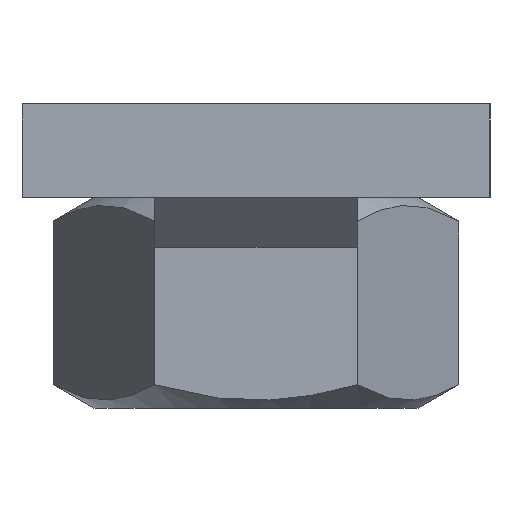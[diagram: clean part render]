
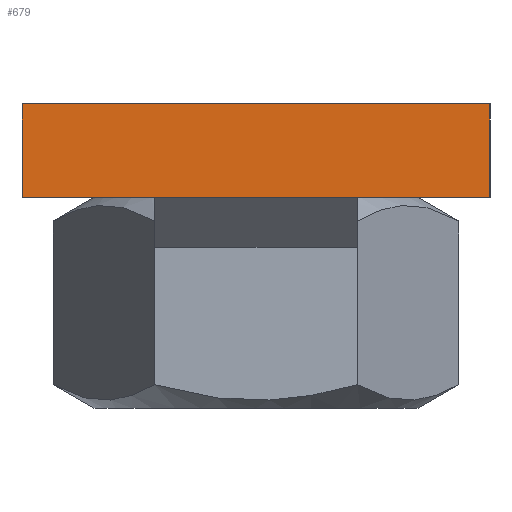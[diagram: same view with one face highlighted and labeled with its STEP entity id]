
A CAD part, left-side view. The second image highlights one B-rep face of the part: STEP entity #679.
In plain terms, the highlighted planar face has unit normal (-1, 0, 0).
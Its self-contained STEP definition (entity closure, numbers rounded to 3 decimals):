
#141=FACE_OUTER_BOUND('',#193,.T.);
#193=EDGE_LOOP('',(#546,#547,#548,#549));
#263=LINE('',#1075,#311);
#265=LINE('',#1079,#313);
#266=LINE('',#1081,#314);
#267=LINE('',#1082,#315);
#311=VECTOR('',#889,8.);
#313=VECTOR('',#893,40.);
#314=VECTOR('',#894,8.);
#315=VECTOR('',#895,40.);
#362=VERTEX_POINT('',#1072);
#363=VERTEX_POINT('',#1074);
#364=VERTEX_POINT('',#1078);
#365=VERTEX_POINT('',#1080);
#433=EDGE_CURVE('',#363,#362,#263,.T.);
#435=EDGE_CURVE('',#362,#364,#265,.T.);
#436=EDGE_CURVE('',#365,#364,#266,.T.);
#437=EDGE_CURVE('',#363,#365,#267,.T.);
#546=ORIENTED_EDGE('',*,*,#435,.T.);
#547=ORIENTED_EDGE('',*,*,#436,.F.);
#548=ORIENTED_EDGE('',*,*,#437,.F.);
#549=ORIENTED_EDGE('',*,*,#433,.T.);
#641=PLANE('',#742);
#679=ADVANCED_FACE('',(#141),#641,.T.);
#742=AXIS2_PLACEMENT_3D('',#1077,#891,#892);
#889=DIRECTION('',(0.,0.,1.));
#891=DIRECTION('center_axis',(-1.,0.,0.));
#892=DIRECTION('ref_axis',(0.,0.,1.));
#893=DIRECTION('',(0.,1.,0.));
#894=DIRECTION('',(0.,0.,1.));
#895=DIRECTION('',(0.,1.,0.));
#1072=CARTESIAN_POINT('',(-110.,-20.,8.));
#1074=CARTESIAN_POINT('',(-110.,-20.,0.));
#1075=CARTESIAN_POINT('',(-110.,-20.,0.));
#1077=CARTESIAN_POINT('Origin',(-110.,-20.,0.));
#1078=CARTESIAN_POINT('',(-110.,20.,8.));
#1079=CARTESIAN_POINT('',(-110.,-20.,8.));
#1080=CARTESIAN_POINT('',(-110.,20.,0.));
#1081=CARTESIAN_POINT('',(-110.,20.,0.));
#1082=CARTESIAN_POINT('',(-110.,-20.,0.));
